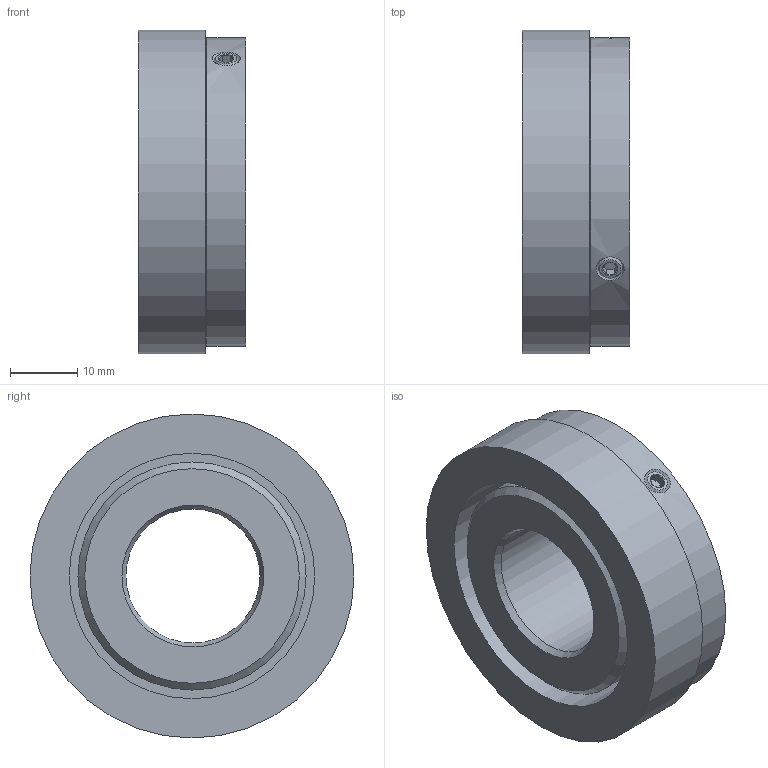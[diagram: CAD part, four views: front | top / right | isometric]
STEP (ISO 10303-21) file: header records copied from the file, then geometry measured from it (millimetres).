
FILE_DESCRIPTION (( 'STEP AP203' ), '1' );
FILE_NAME ('8.RI50.048.2000.112.STEP', '2013-07-16T07:00:17', ( 'Hodot' ), ( '' ), 'SwSTEP 2.0', 'SolidWorks 2012', '' );
FILE_SCHEMA (( 'CONFIG_CONTROL_DESIGN' ));
Length unit declared in the file: millimetre
Products named in the file (1): 8.RI50.048.2000.112
Bounding box: 16 x 48.3 x 48.3 mm (x, y, z)
Volume: 21155.2 mm3; surface area: 10050.6 mm2
Topology: 4 solids, 4 shells, 54 faces, 103 edges, 59 vertices
Faces by surface type: cone 23, plane 22, cylinder 9
Full cylindrical faces by diameter (mm): 3.3 x2, 4 x2, 20 x1, 34 x1, 36.6 x1, 46 x1, 48.3 x1
Entity records: 1511 total; most frequent: CARTESIAN_POINT 471, DIRECTION 206, ORIENTED_EDGE 152, AXIS2_PLACEMENT_3D 91, EDGE_LOOP 84, EDGE_CURVE 76, FACE_OUTER_BOUND 63, ADVANCED_FACE 54
